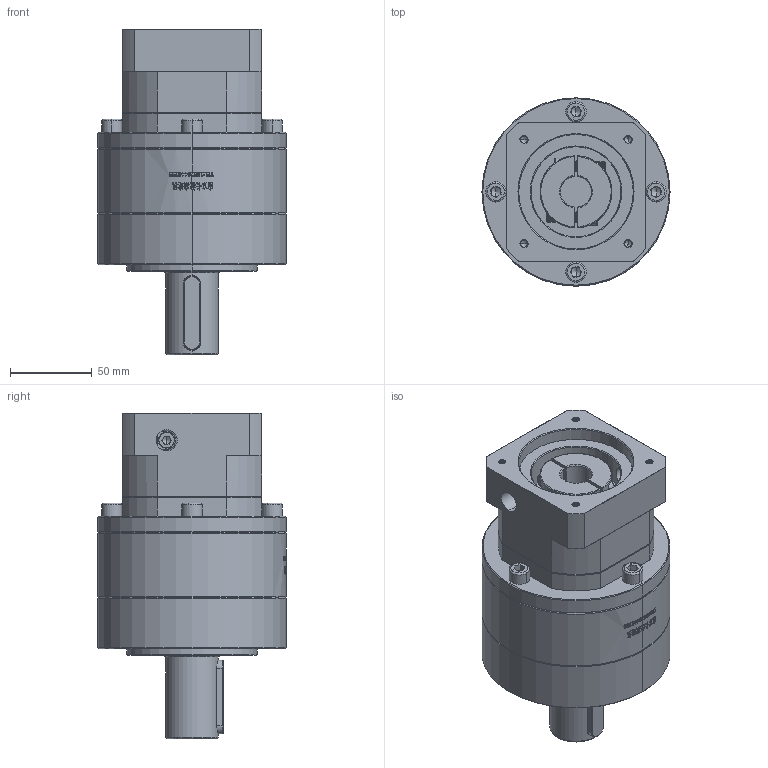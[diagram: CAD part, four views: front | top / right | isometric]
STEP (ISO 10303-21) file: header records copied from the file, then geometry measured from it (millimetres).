
FILE_DESCRIPTION (( 'STEP AP214' ), '1' );
FILE_NAME ('ZE120A-D32-L2-19-70-90-M5.step', '2023-03-13T06:51:26', ( '' ), ( '' ), 'SwSTEP 2.0', 'SolidWorks 2016', '' );
FILE_SCHEMA (( 'AUTOMOTIVE_DESIGN' ));
Length unit declared in the file: millimetre
Products named in the file (1): ZE120A-D32-L2-19-70-90-M5
Bounding box: 115 x 115 x 199 mm (x, y, z)
Volume: 1233752.9 mm3; surface area: 121138.4 mm2
Topology: 5 solids, 5 shells, 1990 faces, 5282 edges, 3380 vertices
Faces by surface type: plane 856, cylinder 494, bspline 348, cone 292
Entity records: 116012 total; most frequent: CARTESIAN_POINT 49438, ORIENTED_EDGE 10488, DIRECTION 7740, EDGE_CURVE 5244, VERTEX_POINT 3380, VECTOR 2784, LINE 2784, AXIS2_PLACEMENT_3D 2478
